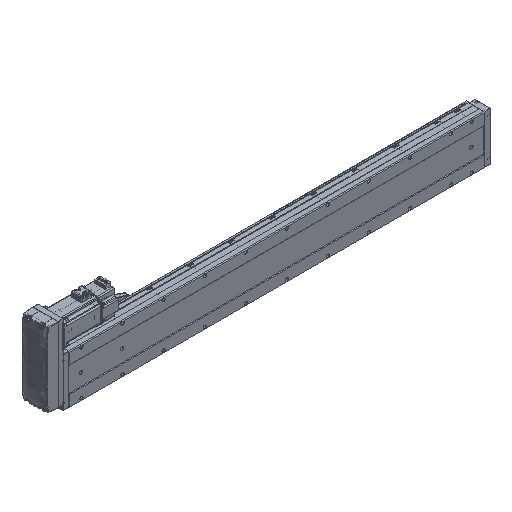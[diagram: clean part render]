
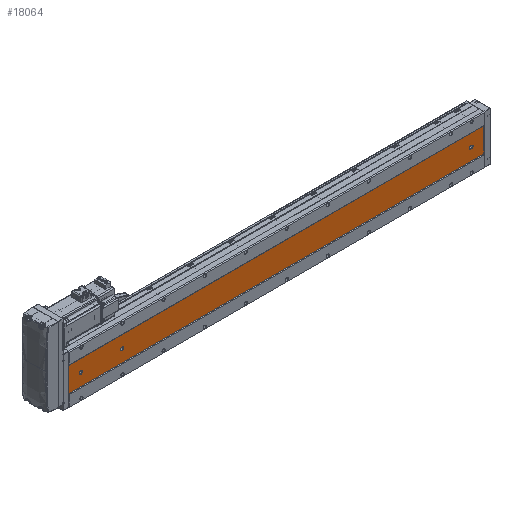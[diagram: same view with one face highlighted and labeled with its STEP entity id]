
A CAD part, isometric view. The second image highlights one B-rep face of the part: STEP entity #18064.
In plain terms, the highlighted planar face has unit normal (0, -1, 0).
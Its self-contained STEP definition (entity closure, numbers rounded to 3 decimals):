
#1858 = AXIS2_PLACEMENT_3D ( 'NONE', #49608, #91076, #82155 ) ;
#4899 = DIRECTION ( 'NONE',  ( 1., 0., 0. ) ) ;
#5350 = VECTOR ( 'NONE', #4899, 1000. ) ;
#7559 = LINE ( 'NONE', #27758, #61067 ) ;
#8231 = EDGE_CURVE ( 'NONE', #14486, #11636, #102740, .T. ) ;
#8977 = CIRCLE ( 'NONE', #24618, 3.5 ) ;
#10472 = EDGE_LOOP ( 'NONE', ( #64506, #103829, #97667, #44371 ) ) ;
#11636 = VERTEX_POINT ( 'NONE', #58422 ) ;
#14486 = VERTEX_POINT ( 'NONE', #86818 ) ;
#15496 = CIRCLE ( 'NONE', #62269, 3.5 ) ;
#15927 = EDGE_CURVE ( 'NONE', #61432, #37180, #59761, .T. ) ;
#17149 = CARTESIAN_POINT ( 'NONE',  ( -36.392, -52.848, 32. ) ) ;
#17533 = CIRCLE ( 'NONE', #1858, 3.5 ) ;
#17864 = VERTEX_POINT ( 'NONE', #105539 ) ;
#18064 = ADVANCED_FACE ( 'NONE', ( #103674, #35592, #71750, #18246 ), #66392, .F. ) ;
#18246 = FACE_OUTER_BOUND ( 'NONE', #10472, .T. ) ;
#21700 = CARTESIAN_POINT ( 'NONE',  ( -36.392, -52.848, 30. ) ) ;
#22475 = ORIENTED_EDGE ( 'NONE', *, *, #50030, .T. ) ;
#24076 = ORIENTED_EDGE ( 'NONE', *, *, #66338, .T. ) ;
#24618 = AXIS2_PLACEMENT_3D ( 'NONE', #50856, #110482, #75916 ) ;
#27189 = CIRCLE ( 'NONE', #61641, 3.5 ) ;
#27758 = CARTESIAN_POINT ( 'NONE',  ( -36.392, -52.848, 1011. ) ) ;
#28020 = LINE ( 'NONE', #82207, #5350 ) ;
#29149 = CARTESIAN_POINT ( 'NONE',  ( -39.892, -52.848, 981. ) ) ;
#29869 = DIRECTION ( 'NONE',  ( 0., 0., 1. ) ) ;
#30369 = EDGE_LOOP ( 'NONE', ( #22475, #59139 ) ) ;
#30450 = CARTESIAN_POINT ( 'NONE',  ( -39.892, -52.848, 26.5 ) ) ;
#31714 = EDGE_CURVE ( 'NONE', #77784, #76971, #27189, .T. ) ;
#32375 = EDGE_CURVE ( 'NONE', #41161, #73508, #74966, .T. ) ;
#35085 = EDGE_CURVE ( 'NONE', #95252, #61432, #7559, .T. ) ;
#35189 = EDGE_CURVE ( 'NONE', #86882, #97799, #46181, .T. ) ;
#35592 = FACE_BOUND ( 'NONE', #62771, .T. ) ;
#37180 = VERTEX_POINT ( 'NONE', #30450 ) ;
#39313 = DIRECTION ( 'NONE',  ( 0., 1., 0. ) ) ;
#40574 = CARTESIAN_POINT ( 'NONE',  ( -39.892, -52.848, 984.5 ) ) ;
#41161 = VERTEX_POINT ( 'NONE', #41383 ) ;
#41383 = CARTESIAN_POINT ( 'NONE',  ( -69.892, -52.848, 1011. ) ) ;
#43938 = ORIENTED_EDGE ( 'NONE', *, *, #53304, .T. ) ;
#44371 = ORIENTED_EDGE ( 'NONE', *, *, #32375, .T. ) ;
#46181 = LINE ( 'NONE', #87928, #94319 ) ;
#46804 = EDGE_CURVE ( 'NONE', #104651, #17864, #17533, .T. ) ;
#47232 = CARTESIAN_POINT ( 'NONE',  ( -69.892, -52.848, 1011. ) ) ;
#49285 = CIRCLE ( 'NONE', #106577, 3.5 ) ;
#49608 = CARTESIAN_POINT ( 'NONE',  ( -39.892, -52.848, 881. ) ) ;
#49907 = DIRECTION ( 'NONE',  ( 0., 0., 1. ) ) ;
#50013 = CARTESIAN_POINT ( 'NONE',  ( -9.892, -52.848, 1011. ) ) ;
#50030 = EDGE_CURVE ( 'NONE', #76971, #77784, #109220, .T. ) ;
#50856 = CARTESIAN_POINT ( 'NONE',  ( -39.892, -52.848, 881. ) ) ;
#52313 = AXIS2_PLACEMENT_3D ( 'NONE', #109207, #83553, #49907 ) ;
#53304 = EDGE_CURVE ( 'NONE', #17864, #104651, #8977, .T. ) ;
#54907 = VECTOR ( 'NONE', #106921, 1000. ) ;
#58061 = EDGE_LOOP ( 'NONE', ( #80337, #24076, #58723, #92586, #59033 ) ) ;
#58422 = CARTESIAN_POINT ( 'NONE',  ( -9.892, -52.848, 0. ) ) ;
#58627 = DIRECTION ( 'NONE',  ( 0., 0., -1. ) ) ;
#58723 = ORIENTED_EDGE ( 'NONE', *, *, #35085, .T. ) ;
#59011 = DIRECTION ( 'NONE',  ( 0., 0., 1. ) ) ;
#59033 = ORIENTED_EDGE ( 'NONE', *, *, #104680, .T. ) ;
#59139 = ORIENTED_EDGE ( 'NONE', *, *, #31714, .T. ) ;
#59761 = CIRCLE ( 'NONE', #80817, 3.5 ) ;
#61067 = VECTOR ( 'NONE', #103521, 1000. ) ;
#61432 = VERTEX_POINT ( 'NONE', #21700 ) ;
#61641 = AXIS2_PLACEMENT_3D ( 'NONE', #96652, #62399, #105231 ) ;
#62120 = DIRECTION ( 'NONE',  ( 1., 0., 0. ) ) ;
#62269 = AXIS2_PLACEMENT_3D ( 'NONE', #101859, #110039, #59011 ) ;
#62399 = DIRECTION ( 'NONE',  ( 0., 1., 0. ) ) ;
#62771 = EDGE_LOOP ( 'NONE', ( #43938, #106234 ) ) ;
#63468 = EDGE_CURVE ( 'NONE', #73508, #11636, #82321, .T. ) ;
#64506 = ORIENTED_EDGE ( 'NONE', *, *, #63468, .T. ) ;
#65987 = EDGE_CURVE ( 'NONE', #41161, #14486, #28020, .T. ) ;
#66338 = EDGE_CURVE ( 'NONE', #97799, #95252, #49285, .T. ) ;
#66392 = PLANE ( 'NONE',  #52313 ) ;
#71750 = FACE_BOUND ( 'NONE', #30369, .T. ) ;
#72160 = DIRECTION ( 'NONE',  ( 0., 1., 0. ) ) ;
#73508 = VERTEX_POINT ( 'NONE', #78607 ) ;
#73719 = AXIS2_PLACEMENT_3D ( 'NONE', #29149, #72160, #29869 ) ;
#74966 = LINE ( 'NONE', #47232, #54907 ) ;
#75916 = DIRECTION ( 'NONE',  ( 0., 0., 1. ) ) ;
#76217 = CARTESIAN_POINT ( 'NONE',  ( -39.892, -52.848, 884.5 ) ) ;
#76971 = VERTEX_POINT ( 'NONE', #101736 ) ;
#77784 = VERTEX_POINT ( 'NONE', #40574 ) ;
#78607 = CARTESIAN_POINT ( 'NONE',  ( -69.892, -52.848, 0. ) ) ;
#80337 = ORIENTED_EDGE ( 'NONE', *, *, #35189, .T. ) ;
#80817 = AXIS2_PLACEMENT_3D ( 'NONE', #81960, #39313, #103488 ) ;
#81960 = CARTESIAN_POINT ( 'NONE',  ( -39.892, -52.848, 30. ) ) ;
#82155 = DIRECTION ( 'NONE',  ( 0., 0., 1. ) ) ;
#82207 = CARTESIAN_POINT ( 'NONE',  ( -69.892, -52.848, 1011. ) ) ;
#82321 = LINE ( 'NONE', #87488, #99583 ) ;
#83222 = DIRECTION ( 'NONE',  ( 0., 0., 1. ) ) ;
#83553 = DIRECTION ( 'NONE',  ( 0., 1., 0. ) ) ;
#86818 = CARTESIAN_POINT ( 'NONE',  ( -9.892, -52.848, 1011. ) ) ;
#86882 = VERTEX_POINT ( 'NONE', #106118 ) ;
#87488 = CARTESIAN_POINT ( 'NONE',  ( -69.892, -52.848, 0. ) ) ;
#87928 = CARTESIAN_POINT ( 'NONE',  ( -43.392, -52.848, 1011. ) ) ;
#91076 = DIRECTION ( 'NONE',  ( 0., 1., 0. ) ) ;
#92586 = ORIENTED_EDGE ( 'NONE', *, *, #15927, .T. ) ;
#93469 = VECTOR ( 'NONE', #58627, 1000. ) ;
#94319 = VECTOR ( 'NONE', #97171, 1000. ) ;
#95252 = VERTEX_POINT ( 'NONE', #17149 ) ;
#96652 = CARTESIAN_POINT ( 'NONE',  ( -39.892, -52.848, 981. ) ) ;
#97171 = DIRECTION ( 'NONE',  ( 0., 0., 1. ) ) ;
#97667 = ORIENTED_EDGE ( 'NONE', *, *, #65987, .F. ) ;
#97799 = VERTEX_POINT ( 'NONE', #107691 ) ;
#99583 = VECTOR ( 'NONE', #62120, 1000. ) ;
#101036 = CARTESIAN_POINT ( 'NONE',  ( -39.892, -52.848, 32. ) ) ;
#101736 = CARTESIAN_POINT ( 'NONE',  ( -39.892, -52.848, 977.5 ) ) ;
#101859 = CARTESIAN_POINT ( 'NONE',  ( -39.892, -52.848, 30. ) ) ;
#102740 = LINE ( 'NONE', #50013, #93469 ) ;
#103488 = DIRECTION ( 'NONE',  ( 0., 0., 1. ) ) ;
#103521 = DIRECTION ( 'NONE',  ( 0., 0., -1. ) ) ;
#103674 = FACE_BOUND ( 'NONE', #58061, .T. ) ;
#103829 = ORIENTED_EDGE ( 'NONE', *, *, #8231, .F. ) ;
#104651 = VERTEX_POINT ( 'NONE', #76217 ) ;
#104680 = EDGE_CURVE ( 'NONE', #37180, #86882, #15496, .T. ) ;
#105231 = DIRECTION ( 'NONE',  ( 0., 0., 1. ) ) ;
#105539 = CARTESIAN_POINT ( 'NONE',  ( -39.892, -52.848, 877.5 ) ) ;
#106118 = CARTESIAN_POINT ( 'NONE',  ( -43.392, -52.848, 30. ) ) ;
#106234 = ORIENTED_EDGE ( 'NONE', *, *, #46804, .T. ) ;
#106577 = AXIS2_PLACEMENT_3D ( 'NONE', #101036, #108853, #83222 ) ;
#106921 = DIRECTION ( 'NONE',  ( 0., 0., -1. ) ) ;
#107691 = CARTESIAN_POINT ( 'NONE',  ( -43.392, -52.848, 32. ) ) ;
#108853 = DIRECTION ( 'NONE',  ( 0., 1., 0. ) ) ;
#109207 = CARTESIAN_POINT ( 'NONE',  ( -69.892, -52.848, 1011. ) ) ;
#109220 = CIRCLE ( 'NONE', #73719, 3.5 ) ;
#110039 = DIRECTION ( 'NONE',  ( 0., 1., 0. ) ) ;
#110482 = DIRECTION ( 'NONE',  ( 0., 1., 0. ) ) ;
